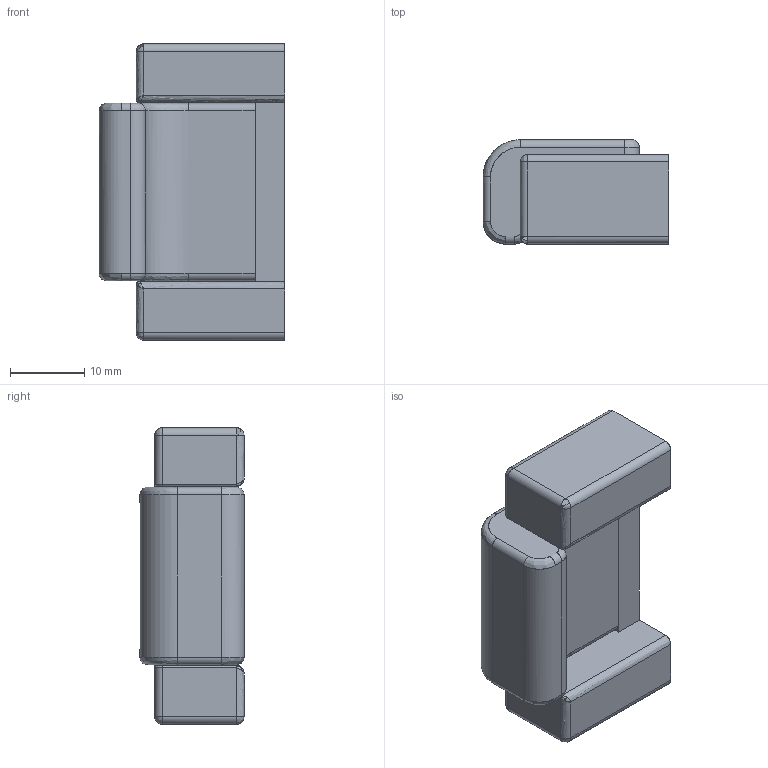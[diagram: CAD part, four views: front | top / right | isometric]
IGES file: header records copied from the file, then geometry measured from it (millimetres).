
Start section: C
Global section: file name: 8104-40.igs; native system: By Siemens PLM Incorporated; preprocessor: XPlus GENERIC/IGES 16.0.42; author: Author; organization: Title; date: 20231128.105727; units: millimetre
Bounding box: 25 x 14 x 39.9 mm (x, y, z)
Surface area: 6724.9 mm2 (no closed solid volume)
Topology: 0 solids, 0 shells, 258 faces, 1546 edges, 1541 vertices
Faces by surface type: bspline 258
